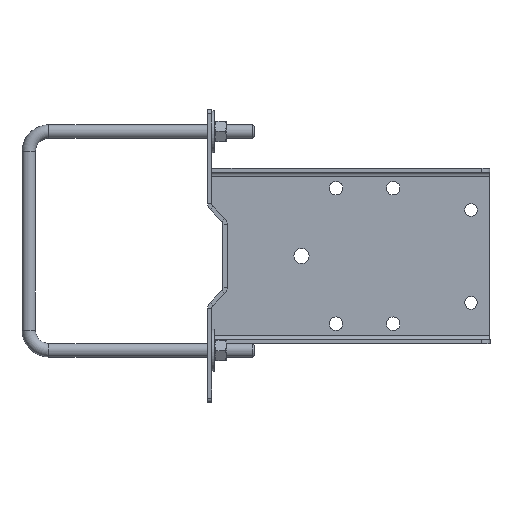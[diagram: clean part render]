
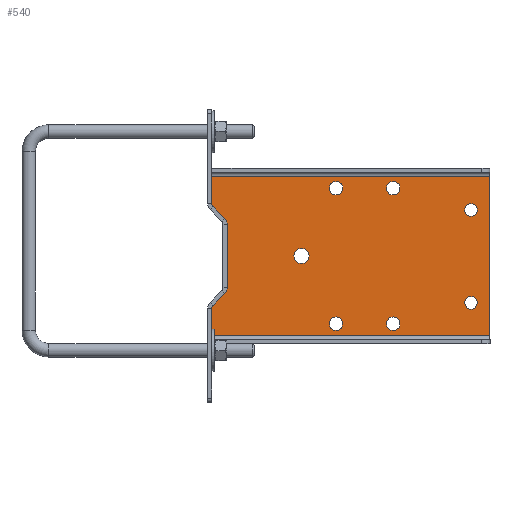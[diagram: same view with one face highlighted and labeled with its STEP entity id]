
A CAD part, front view. The second image highlights one B-rep face of the part: STEP entity #540.
In plain terms, the highlighted planar face has unit normal (0, -1, 0) as drawn and (0, 0, -1) by its records, which use the part's own axes.
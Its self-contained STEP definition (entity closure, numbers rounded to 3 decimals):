
#540=ADVANCED_FACE('',(#3072,#3074,#3076,#3078,#3080,#3082,#3084,#3086),#3088,.F.);
#3072=FACE_BOUND('',#3073,.T.);
#3073=EDGE_LOOP('',(#5298,#5299,#5300,#5301,#5302,#5303,#5304,#5305,#5306,#5307,
#5308,#5309));
#3074=FACE_BOUND('',#3075,.T.);
#3075=EDGE_LOOP('',(#5310));
#3076=FACE_BOUND('',#3077,.T.);
#3077=EDGE_LOOP('',(#5311));
#3078=FACE_BOUND('',#3079,.T.);
#3079=EDGE_LOOP('',(#5312));
#3080=FACE_BOUND('',#3081,.T.);
#3081=EDGE_LOOP('',(#5313));
#3082=FACE_BOUND('',#3083,.T.);
#3083=EDGE_LOOP('',(#5314));
#3084=FACE_BOUND('',#3085,.T.);
#3085=EDGE_LOOP('',(#5315));
#3086=FACE_BOUND('',#3087,.T.);
#3087=EDGE_LOOP('',(#5316));
#3088=PLANE('',#3089);
#3089=AXIS2_PLACEMENT_3D('',#3090,#3091,#3092);
#3090=CARTESIAN_POINT('',(0.,0.,0.));
#3091=DIRECTION('',(0.,0.,1.));
#3092=DIRECTION('',(-1.,0.,0.));
#5298=ORIENTED_EDGE('',*,*,#7298,.F.);
#5299=ORIENTED_EDGE('',*,*,#7299,.F.);
#5300=ORIENTED_EDGE('',*,*,#7300,.T.);
#5301=ORIENTED_EDGE('',*,*,#7301,.F.);
#5302=ORIENTED_EDGE('',*,*,#7302,.F.);
#5303=ORIENTED_EDGE('',*,*,#7303,.F.);
#5304=ORIENTED_EDGE('',*,*,#7304,.F.);
#5305=ORIENTED_EDGE('',*,*,#7305,.F.);
#5306=ORIENTED_EDGE('',*,*,#7306,.F.);
#5307=ORIENTED_EDGE('',*,*,#7307,.F.);
#5308=ORIENTED_EDGE('',*,*,#7308,.F.);
#5309=ORIENTED_EDGE('',*,*,#7309,.F.);
#5310=ORIENTED_EDGE('',*,*,#7310,.T.);
#5311=ORIENTED_EDGE('',*,*,#7311,.T.);
#5312=ORIENTED_EDGE('',*,*,#7312,.T.);
#5313=ORIENTED_EDGE('',*,*,#7313,.T.);
#5314=ORIENTED_EDGE('',*,*,#7314,.T.);
#5315=ORIENTED_EDGE('',*,*,#7315,.T.);
#5316=ORIENTED_EDGE('',*,*,#7316,.T.);
#7298=EDGE_CURVE('',#8059,#8060,#8061,.T.);
#7299=EDGE_CURVE('',#8062,#8059,#8063,.T.);
#7300=EDGE_CURVE('',#8062,#8064,#8065,.T.);
#7301=EDGE_CURVE('',#8066,#8064,#8067,.T.);
#7302=EDGE_CURVE('',#8068,#8066,#8069,.T.);
#7303=EDGE_CURVE('',#8070,#8068,#8071,.T.);
#7304=EDGE_CURVE('',#8072,#8070,#8073,.T.);
#7305=EDGE_CURVE('',#8074,#8072,#8075,.T.);
#7306=EDGE_CURVE('',#8076,#8074,#8077,.T.);
#7307=EDGE_CURVE('',#8078,#8076,#8079,.T.);
#7308=EDGE_CURVE('',#8080,#8078,#8081,.T.);
#7309=EDGE_CURVE('',#8060,#8080,#8082,.T.);
#7310=EDGE_CURVE('',#8083,#8083,#8084,.T.);
#7311=EDGE_CURVE('',#8085,#8085,#8086,.T.);
#7312=EDGE_CURVE('',#8087,#8087,#8088,.T.);
#7313=EDGE_CURVE('',#8089,#8089,#8090,.T.);
#7314=EDGE_CURVE('',#8091,#8091,#8092,.T.);
#7315=EDGE_CURVE('',#8093,#8093,#8094,.T.);
#7316=EDGE_CURVE('',#8095,#8095,#8096,.T.);
#8059=VERTEX_POINT('',#9352);
#8060=VERTEX_POINT('',#9353);
#8061=LINE('',#9354,#9355);
#8062=VERTEX_POINT('',#9357);
#8063=LINE('',#9358,#9359);
#8064=VERTEX_POINT('',#9361);
#8065=LINE('',#9362,#9363);
#8066=VERTEX_POINT('',#9365);
#8067=LINE('',#9366,#9367);
#8068=VERTEX_POINT('',#9369);
#8069=CIRCLE('',#9370,5.);
#8070=VERTEX_POINT('',#9374);
#8071=LINE('',#9375,#9376);
#8072=VERTEX_POINT('',#9378);
#8073=CIRCLE('',#9379,10.);
#8074=VERTEX_POINT('',#9383);
#8075=LINE('',#9384,#9385);
#8076=VERTEX_POINT('',#9387);
#8077=CIRCLE('',#9388,10.);
#8078=VERTEX_POINT('',#9392);
#8079=LINE('',#9393,#9394);
#8080=VERTEX_POINT('',#9396);
#8081=CIRCLE('',#9397,5.);
#8082=LINE('',#9401,#9402);
#8083=VERTEX_POINT('',#9404);
#8084=CIRCLE('',#9405,9.);
#8085=VERTEX_POINT('',#9409);
#8086=CIRCLE('',#9410,8.);
#8087=VERTEX_POINT('',#9414);
#8088=CIRCLE('',#9415,8.);
#8089=VERTEX_POINT('',#9419);
#8090=CIRCLE('',#9420,8.);
#8091=VERTEX_POINT('',#9424);
#8092=CIRCLE('',#9425,8.);
#8093=VERTEX_POINT('',#9429);
#8094=CIRCLE('',#9430,7.5);
#8095=VERTEX_POINT('',#9434);
#8096=CIRCLE('',#9435,7.5);
#9352=CARTESIAN_POINT('',(170.781,94.533,0.));
#9353=CARTESIAN_POINT('',(-159.814,94.533,0.));
#9354=CARTESIAN_POINT('',(170.781,94.533,0.));
#9355=VECTOR('',#9356,1.);
#9356=DIRECTION('',(-1.,0.,0.));
#9357=CARTESIAN_POINT('',(170.781,-94.467,0.));
#9358=CARTESIAN_POINT('',(170.781,-94.467,0.));
#9359=VECTOR('',#9360,1.);
#9360=DIRECTION('',(0.,1.,0.));
#9361=CARTESIAN_POINT('',(-159.811,-94.467,0.));
#9362=CARTESIAN_POINT('',(170.781,-94.467,0.));
#9363=VECTOR('',#9364,1.);
#9364=DIRECTION('',(-1.,0.,0.));
#9365=CARTESIAN_POINT('',(-159.839,-61.928,0.));
#9366=CARTESIAN_POINT('',(-159.839,-61.928,0.));
#9367=VECTOR('',#9368,1.);
#9368=DIRECTION('',(0.001,-1.,0.));
#9369=CARTESIAN_POINT('',(-158.375,-58.393,0.));
#9370=AXIS2_PLACEMENT_3D('',#9371,#9372,#9373);
#9371=CARTESIAN_POINT('',(-154.839,-61.928,0.));
#9372=DIRECTION('',(0.,0.,1.));
#9373=DIRECTION('',(-0.707,0.707,0.));
#9374=CARTESIAN_POINT('',(-144.561,-44.579,0.));
#9375=CARTESIAN_POINT('',(-144.561,-44.579,0.));
#9376=VECTOR('',#9377,1.);
#9377=DIRECTION('',(-0.707,-0.707,0.));
#9378=CARTESIAN_POINT('',(-141.632,-37.508,0.));
#9379=AXIS2_PLACEMENT_3D('',#9380,#9381,#9382);
#9380=CARTESIAN_POINT('',(-151.632,-37.508,0.));
#9381=DIRECTION('',(0.,0.,-1.));
#9382=DIRECTION('',(1.,0.,0.));
#9383=CARTESIAN_POINT('',(-141.632,37.574,0.));
#9384=CARTESIAN_POINT('',(-141.632,37.574,0.));
#9385=VECTOR('',#9386,1.);
#9386=DIRECTION('',(0.,-1.,0.));
#9387=CARTESIAN_POINT('',(-144.561,44.645,0.));
#9388=AXIS2_PLACEMENT_3D('',#9389,#9390,#9391);
#9389=CARTESIAN_POINT('',(-151.632,37.574,0.));
#9390=DIRECTION('',(0.,0.,-1.));
#9391=DIRECTION('',(0.707,0.707,0.));
#9392=CARTESIAN_POINT('',(-158.375,58.459,0.));
#9393=CARTESIAN_POINT('',(-158.375,58.459,0.));
#9394=VECTOR('',#9395,1.);
#9395=DIRECTION('',(0.707,-0.707,0.));
#9396=CARTESIAN_POINT('',(-159.839,61.994,0.));
#9397=AXIS2_PLACEMENT_3D('',#9398,#9399,#9400);
#9398=CARTESIAN_POINT('',(-154.839,61.994,0.));
#9399=DIRECTION('',(0.,0.,1.));
#9400=DIRECTION('',(-1.,0.,0.));
#9401=CARTESIAN_POINT('',(-159.814,94.533,0.));
#9402=VECTOR('',#9403,1.);
#9403=DIRECTION('',(-0.001,-1.,0.));
#9404=CARTESIAN_POINT('',(-53.219,9.,0.));
#9405=AXIS2_PLACEMENT_3D('',#9406,#9407,#9408);
#9406=CARTESIAN_POINT('',(-53.219,0.,0.));
#9407=DIRECTION('',(0.,0.,1.));
#9408=DIRECTION('',(0.,1.,0.));
#9409=CARTESIAN_POINT('',(55.781,88.5,0.));
#9410=AXIS2_PLACEMENT_3D('',#9411,#9412,#9413);
#9411=CARTESIAN_POINT('',(55.781,80.5,0.));
#9412=DIRECTION('',(0.,0.,1.));
#9413=DIRECTION('',(0.,1.,0.));
#9414=CARTESIAN_POINT('',(-12.219,-72.5,0.));
#9415=AXIS2_PLACEMENT_3D('',#9416,#9417,#9418);
#9416=CARTESIAN_POINT('',(-12.219,-80.5,0.));
#9417=DIRECTION('',(0.,0.,1.));
#9418=DIRECTION('',(0.,1.,0.));
#9419=CARTESIAN_POINT('',(-12.219,88.5,0.));
#9420=AXIS2_PLACEMENT_3D('',#9421,#9422,#9423);
#9421=CARTESIAN_POINT('',(-12.219,80.5,0.));
#9422=DIRECTION('',(0.,0.,1.));
#9423=DIRECTION('',(0.,1.,0.));
#9424=CARTESIAN_POINT('',(55.781,-72.5,0.));
#9425=AXIS2_PLACEMENT_3D('',#9426,#9427,#9428);
#9426=CARTESIAN_POINT('',(55.781,-80.5,0.));
#9427=DIRECTION('',(0.,0.,1.));
#9428=DIRECTION('',(0.,1.,0.));
#9429=CARTESIAN_POINT('',(140.683,55.709,0.));
#9430=AXIS2_PLACEMENT_3D('',#9431,#9432,#9433);
#9431=CARTESIAN_POINT('',(148.183,55.709,0.));
#9432=DIRECTION('',(0.,0.,1.));
#9433=DIRECTION('',(-1.,0.,0.));
#9434=CARTESIAN_POINT('',(140.683,-54.595,0.));
#9435=AXIS2_PLACEMENT_3D('',#9436,#9437,#9438);
#9436=CARTESIAN_POINT('',(148.183,-54.595,0.));
#9437=DIRECTION('',(0.,0.,1.));
#9438=DIRECTION('',(-1.,0.,0.));
